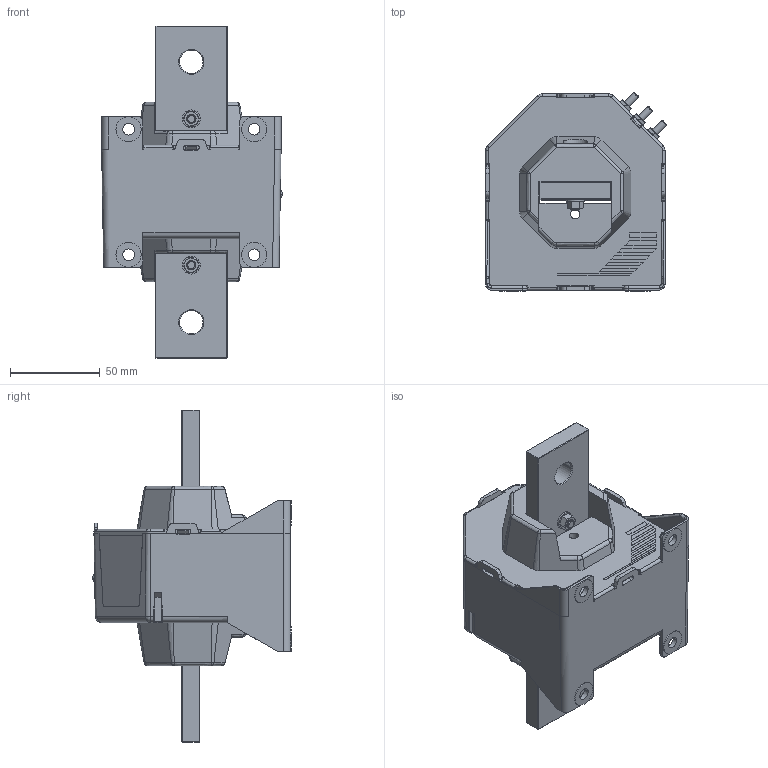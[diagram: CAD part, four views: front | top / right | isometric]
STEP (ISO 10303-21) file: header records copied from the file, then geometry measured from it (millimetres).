
FILE_DESCRIPTION(('Creo Elements/Direct Modeling STEP Export'),'2;1');
FILE_NAME('LT 505-T-SP12.stp','2019-10-21T16:30:47',(''),(''),'Creo Elements/Direct Modeling STEP processor for AP214 (Solid Model)','Creo Elements/Direct Modeling 20.1 10-Mar-2018 (C) Parametric Technology GmbH','');
FILE_SCHEMA(('AUTOMOTIVE_DESIGN { 1 0 10303 214 1 1 1 1 }'));
Length unit declared in the file: millimetre
Products named in the file (1): LT-505-T-SP12
Bounding box: 100.73 x 110.73 x 185 mm (x, y, z)
Surface area: 86533.2 mm2 (no closed solid volume)
Topology: 0 solids, 15 shells, 1184 faces, 2989 edges, 1899 vertices
Faces by surface type: plane 657, cylinder 305, cone 108, torus 38, extrusion 38, bspline 32, sphere 6
Entity records: 47805 total; most frequent: CARTESIAN_POINT 18405, ORIENTED_EDGE 5965, DIRECTION 5182, EDGE_CURVE 2983, VERTEX_POINT 1899, VECTOR 1866, LINE 1825, AXIS2_PLACEMENT_3D 1658
